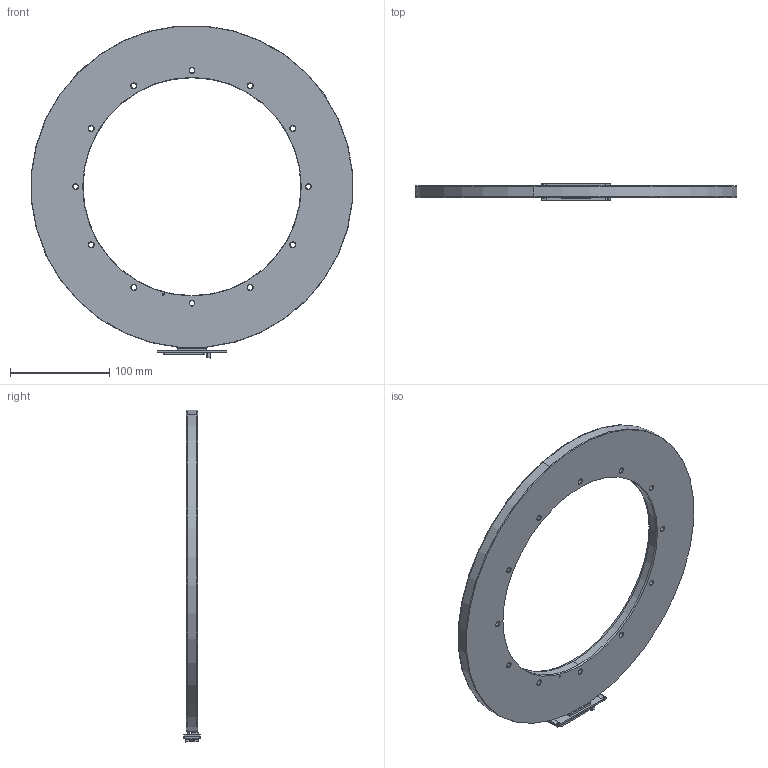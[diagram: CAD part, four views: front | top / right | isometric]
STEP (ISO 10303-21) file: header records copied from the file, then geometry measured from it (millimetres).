
FILE_DESCRIPTION (( 'STEP AP214' ), '1' );
FILE_NAME ('DBRxVx_SAR325.STEP', '2024-02-01T10:14:29', ( '' ), ( '' ), 'SwSTEP 2.0', 'SolidWorks 2022', '' );
FILE_SCHEMA (( 'AUTOMOTIVE_DESIGN' ));
Length unit declared in the file: millimetre
Products named in the file (1): DBRxVx_SAR325
Bounding box: 324.47 x 17 x 335.21 mm (x, y, z)
Volume: 538848.3 mm3; surface area: 117138.3 mm2
Topology: 2 solids, 2 shells, 1476 faces, 4013 edges, 2657 vertices
Faces by surface type: plane 1049, bspline 225, cylinder 130, cone 68, sphere 4
Entity records: 74321 total; most frequent: CARTESIAN_POINT 25965, ORIENTED_EDGE 8016, DIRECTION 4308, EDGE_CURVE 4008, VERTEX_POINT 2657, B_SPLINE_CURVE_WITH_KNOTS 2410, EDGE_LOOP 1635, UNCERTAINTY_MEASURE_WITH_UNIT 1480
